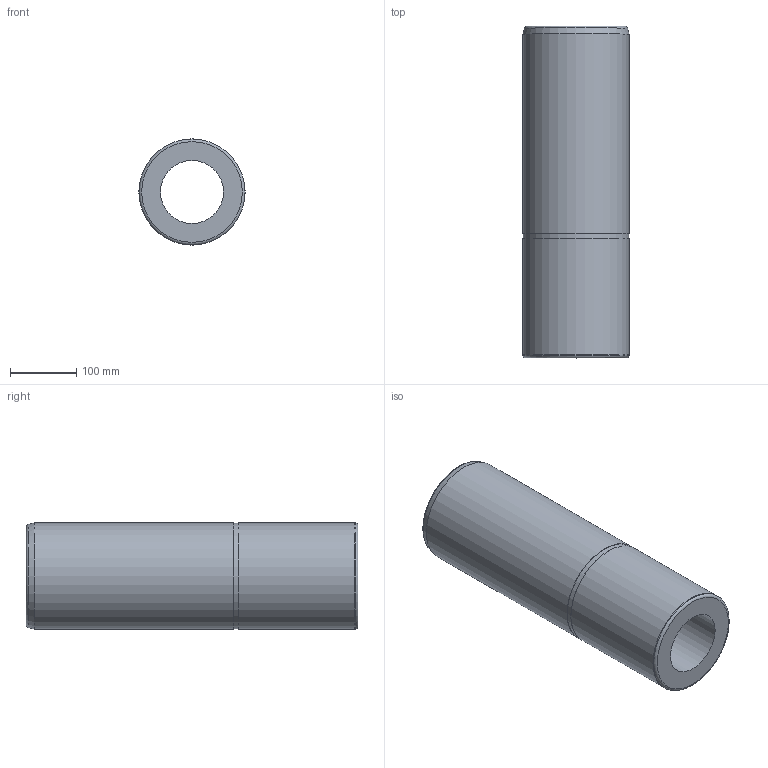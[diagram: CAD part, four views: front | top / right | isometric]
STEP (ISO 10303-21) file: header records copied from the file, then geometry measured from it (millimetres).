
FILE_DESCRIPTION( ( 'STEP AP203' ), '1' );
FILE_NAME( 'D:/Cuma/26 04 2010/D15/D15_160500.step', '2003-02-25T15:10:58', ( ' ' ), ( ' ' ), 'XStep 1.0', ' ', ' ' );
FILE_SCHEMA( ( 'CONFIG_CONTROL_DESIGN' ) );
Length unit declared in the file: metre
Products named in the file (1): 1
Bounding box: 160 x 500 x 160 mm (x, y, z)
Volume: 6489050.5 mm3; surface area: 426342.1 mm2
Topology: 1 solids, 1 shells, 18 faces, 37 edges, 23 vertices
Faces by surface type: cylinder 8, cone 4, plane 4, torus 2
Full cylindrical faces by diameter (mm): 10.25 x4, 95 x1, 159 x1, 160 x2
Entity records: 421 total; most frequent: DIRECTION 74, CARTESIAN_POINT 57, AXIS2_PLACEMENT_3D 37, EDGE_LOOP 36, ORIENTED_EDGE 36, FACE_OUTER_BOUND 28, VERTEX_POINT 20, ADVANCED_FACE 18
